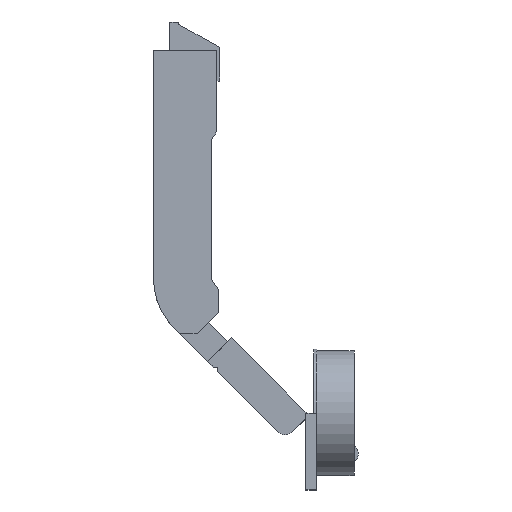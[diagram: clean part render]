
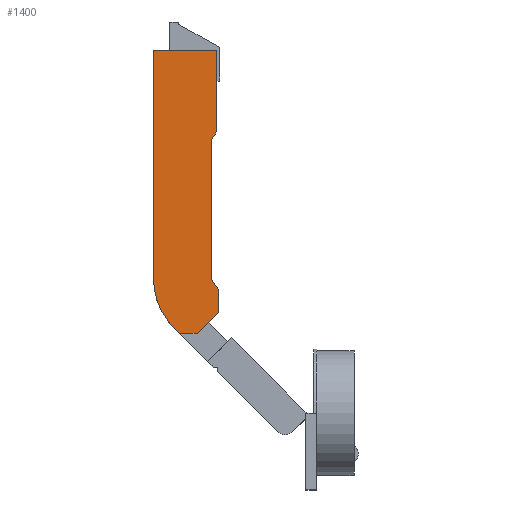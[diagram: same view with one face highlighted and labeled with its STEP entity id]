
A CAD part, top view. The second image highlights one B-rep face of the part: STEP entity #1400.
In plain terms, the highlighted planar face has unit normal (0, 0, 1).
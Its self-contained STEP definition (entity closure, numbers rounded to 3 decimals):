
#1 = AXIS2_PLACEMENT_3D ( 'NONE', #617, #611, #609 ) ;
#164 = LINE ( 'NONE', #1188, #2033 ) ;
#187 = VECTOR ( 'NONE', #639, 1000. ) ;
#210 = VERTEX_POINT ( 'NONE', #557 ) ;
#228 = LINE ( 'NONE', #696, #1596 ) ;
#262 = CARTESIAN_POINT ( 'NONE',  ( -16.392, 23.852, 9.15 ) ) ;
#350 = ORIENTED_EDGE ( 'NONE', *, *, #1888, .F. ) ;
#405 = VERTEX_POINT ( 'NONE', #2271 ) ;
#474 = ORIENTED_EDGE ( 'NONE', *, *, #2296, .F. ) ;
#502 = LINE ( 'NONE', #1830, #2402 ) ;
#556 = VERTEX_POINT ( 'NONE', #2672 ) ;
#557 = CARTESIAN_POINT ( 'NONE',  ( -14.942, 22.402, 9.15 ) ) ;
#609 = DIRECTION ( 'NONE',  ( 0., -1., 0. ) ) ;
#611 = DIRECTION ( 'NONE',  ( 0., 0., -1. ) ) ;
#617 = CARTESIAN_POINT ( 'NONE',  ( -2.25, 37.994, 9.15 ) ) ;
#639 = DIRECTION ( 'NONE',  ( 0., -1., 0. ) ) ;
#648 = CARTESIAN_POINT ( 'NONE',  ( -4.5, 79.036, 9.15 ) ) ;
#652 = DIRECTION ( 'NONE',  ( -0.574, -0.819, 0. ) ) ;
#659 = CARTESIAN_POINT ( 'NONE',  ( -6., 76.894, 9.15 ) ) ;
#670 = DIRECTION ( 'NONE',  ( -0.707, -0.707, 0. ) ) ;
#676 = CARTESIAN_POINT ( 'NONE',  ( -4.01, 28.384, 9.15 ) ) ;
#680 = DIRECTION ( 'NONE',  ( 0., -1., 0. ) ) ;
#691 = CARTESIAN_POINT ( 'NONE',  ( -4.01, 28.384, 9.15 ) ) ;
#692 = DIRECTION ( 'NONE',  ( -1., 0., 0. ) ) ;
#696 = CARTESIAN_POINT ( 'NONE',  ( -9.992, 22.402, 9.15 ) ) ;
#872 = LINE ( 'NONE', #676, #1041 ) ;
#976 = CARTESIAN_POINT ( 'NONE',  ( -4.5, 101.894, 9.15 ) ) ;
#1029 = VERTEX_POINT ( 'NONE', #976 ) ;
#1041 = VECTOR ( 'NONE', #670, 1000. ) ;
#1114 = AXIS2_PLACEMENT_3D ( 'NONE', #2630, #2614, #2612 ) ;
#1188 = CARTESIAN_POINT ( 'NONE',  ( -5.502, 12.962, 9.15 ) ) ;
#1190 = DIRECTION ( 'NONE',  ( -0.707, 0.707, 0. ) ) ;
#1345 = VERTEX_POINT ( 'NONE', #2675 ) ;
#1349 = VECTOR ( 'NONE', #1790, 1000. ) ;
#1391 = VERTEX_POINT ( 'NONE', #2623 ) ;
#1400 = ADVANCED_FACE ( 'NONE', ( #2715 ), #2617, .F. ) ;
#1432 = ORIENTED_EDGE ( 'NONE', *, *, #2105, .F. ) ;
#1465 = ORIENTED_EDGE ( 'NONE', *, *, #2298, .F. ) ;
#1559 = CIRCLE ( 'NONE', #1, 20. ) ;
#1570 = VECTOR ( 'NONE', #652, 1000. ) ;
#1587 = LINE ( 'NONE', #659, #1570 ) ;
#1593 = VECTOR ( 'NONE', #680, 1000. ) ;
#1595 = ORIENTED_EDGE ( 'NONE', *, *, #2304, .F. ) ;
#1596 = VECTOR ( 'NONE', #692, 1000. ) ;
#1599 = LINE ( 'NONE', #691, #1593 ) ;
#1668 = VERTEX_POINT ( 'NONE', #2173 ) ;
#1674 = EDGE_LOOP ( 'NONE', ( #1432, #2717, #1465, #474, #350, #1739, #1595, #1904, #1963, #2130, #2184 ) ) ;
#1676 = VERTEX_POINT ( 'NONE', #2167 ) ;
#1687 = CARTESIAN_POINT ( 'NONE',  ( -6., 37.592, 9.15 ) ) ;
#1739 = ORIENTED_EDGE ( 'NONE', *, *, #1750, .F. ) ;
#1750 = EDGE_CURVE ( 'NONE', #1668, #1927, #2475, .T. ) ;
#1790 = DIRECTION ( 'NONE',  ( 0.574, -0.819, 0. ) ) ;
#1795 = CARTESIAN_POINT ( 'NONE',  ( -4.01, 34.75, 9.15 ) ) ;
#1820 = DIRECTION ( 'NONE',  ( 1., 0., 0. ) ) ;
#1825 = VERTEX_POINT ( 'NONE', #1916 ) ;
#1830 = CARTESIAN_POINT ( 'NONE',  ( -22.25, 101.894, 9.15 ) ) ;
#1838 = EDGE_CURVE ( 'NONE', #405, #1345, #2416, .T. ) ;
#1841 = CARTESIAN_POINT ( 'NONE',  ( -22.25, 37.994, 9.15 ) ) ;
#1848 = DIRECTION ( 'NONE',  ( 0., 1., 0. ) ) ;
#1852 = EDGE_CURVE ( 'NONE', #1345, #1029, #502, .T. ) ;
#1888 = EDGE_CURVE ( 'NONE', #1927, #556, #2876, .T. ) ;
#1904 = ORIENTED_EDGE ( 'NONE', *, *, #2307, .F. ) ;
#1916 = CARTESIAN_POINT ( 'NONE',  ( -9.992, 22.402, 9.15 ) ) ;
#1927 = VERTEX_POINT ( 'NONE', #1687 ) ;
#1963 = ORIENTED_EDGE ( 'NONE', *, *, #1852, .F. ) ;
#1990 = CARTESIAN_POINT ( 'NONE',  ( -6., 37.592, 9.15 ) ) ;
#1994 = DIRECTION ( 'NONE',  ( 0., -1., 0. ) ) ;
#2033 = VECTOR ( 'NONE', #1190, 1000. ) ;
#2105 = EDGE_CURVE ( 'NONE', #210, #2789, #164, .T. ) ;
#2130 = ORIENTED_EDGE ( 'NONE', *, *, #1838, .F. ) ;
#2167 = CARTESIAN_POINT ( 'NONE',  ( -4.01, 28.384, 9.15 ) ) ;
#2173 = CARTESIAN_POINT ( 'NONE',  ( -6., 76.894, 9.15 ) ) ;
#2184 = ORIENTED_EDGE ( 'NONE', *, *, #2310, .F. ) ;
#2271 = CARTESIAN_POINT ( 'NONE',  ( -22.25, 37.994, 9.15 ) ) ;
#2291 = EDGE_CURVE ( 'NONE', #1825, #210, #228, .T. ) ;
#2296 = EDGE_CURVE ( 'NONE', #556, #1676, #1599, .T. ) ;
#2298 = EDGE_CURVE ( 'NONE', #1676, #1825, #872, .T. ) ;
#2304 = EDGE_CURVE ( 'NONE', #1391, #1668, #1587, .T. ) ;
#2307 = EDGE_CURVE ( 'NONE', #1029, #1391, #2713, .T. ) ;
#2310 = EDGE_CURVE ( 'NONE', #2789, #405, #1559, .T. ) ;
#2402 = VECTOR ( 'NONE', #1820, 1000. ) ;
#2416 = LINE ( 'NONE', #1841, #2426 ) ;
#2426 = VECTOR ( 'NONE', #1848, 1000. ) ;
#2475 = LINE ( 'NONE', #1990, #2476 ) ;
#2476 = VECTOR ( 'NONE', #1994, 1000. ) ;
#2612 = DIRECTION ( 'NONE',  ( 0., -1., 0. ) ) ;
#2614 = DIRECTION ( 'NONE',  ( 0., 0., -1. ) ) ;
#2617 = PLANE ( 'NONE',  #1114 ) ;
#2623 = CARTESIAN_POINT ( 'NONE',  ( -4.5, 79.036, 9.15 ) ) ;
#2630 = CARTESIAN_POINT ( 'NONE',  ( -2.25, 37.994, 9.15 ) ) ;
#2672 = CARTESIAN_POINT ( 'NONE',  ( -4.01, 34.75, 9.15 ) ) ;
#2675 = CARTESIAN_POINT ( 'NONE',  ( -22.25, 101.894, 9.15 ) ) ;
#2713 = LINE ( 'NONE', #648, #187 ) ;
#2715 = FACE_OUTER_BOUND ( 'NONE', #1674, .T. ) ;
#2717 = ORIENTED_EDGE ( 'NONE', *, *, #2291, .F. ) ;
#2789 = VERTEX_POINT ( 'NONE', #262 ) ;
#2876 = LINE ( 'NONE', #1795, #1349 ) ;
